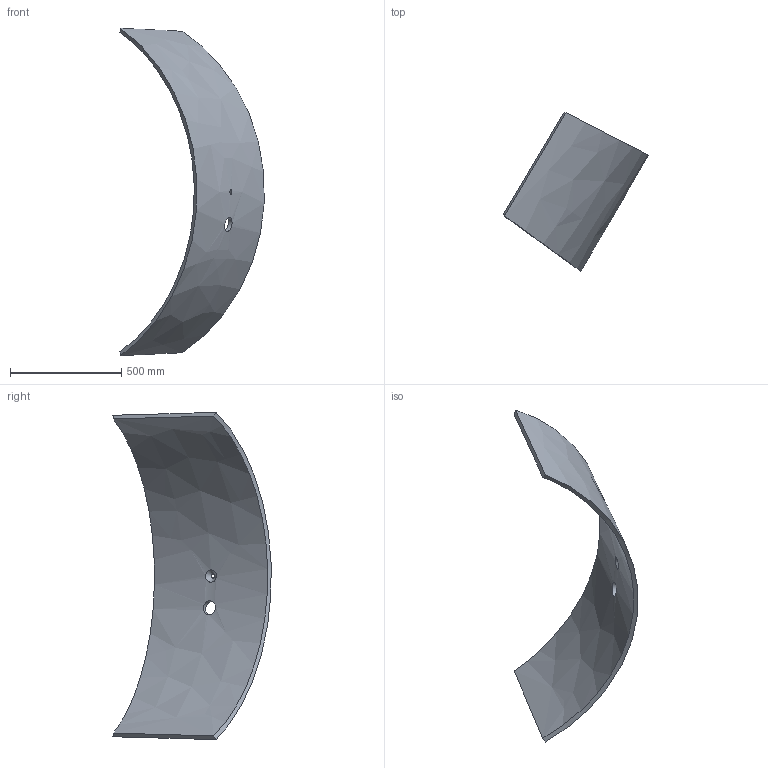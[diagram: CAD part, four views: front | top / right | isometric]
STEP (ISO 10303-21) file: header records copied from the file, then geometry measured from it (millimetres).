
FILE_DESCRIPTION (( 'STEP AP214' ), '1' );
FILE_NAME ('P7.1.STEP', '2025-01-09T19:43:28', ( '' ), ( '' ), 'SwSTEP 2.0', 'SolidWorks 2024', '' );
FILE_SCHEMA (( 'AUTOMOTIVE_DESIGN' ));
Length unit declared in the file: inch
Products named in the file (1): P7.1
Bounding box: 649.56 x 711.91 x 1472.1 mm (x, y, z)
Volume: 18980910.9 mm3; surface area: 2091379.8 mm2
Topology: 1 solids, 1 shells, 9 faces, 20 edges, 13 vertices
Faces by surface type: bspline 7, cylinder 2
Full cylindrical faces by diameter (mm): 19.431 x1, 63.5 x1
Entity records: 2588 total; most frequent: CARTESIAN_POINT 2417, ORIENTED_EDGE 34, EDGE_CURVE 17, B_SPLINE_CURVE_WITH_KNOTS 17, EDGE_LOOP 16, VERTEX_POINT 13, FACE_OUTER_BOUND 12, ADVANCED_FACE 9
